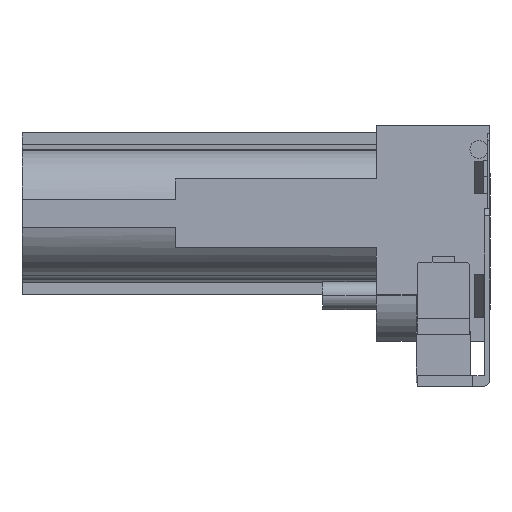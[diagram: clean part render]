
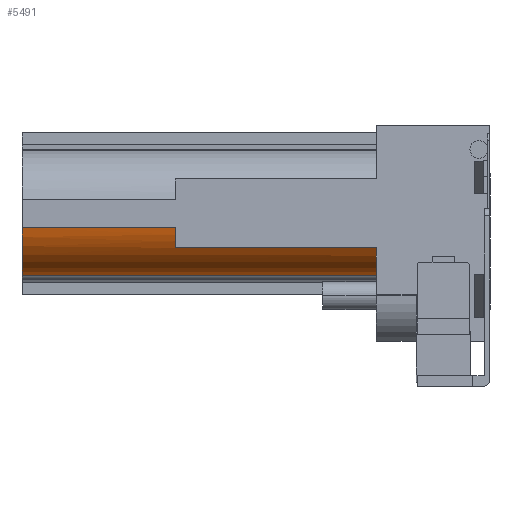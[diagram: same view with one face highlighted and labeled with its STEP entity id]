
A CAD part, front view. The second image highlights one B-rep face of the part: STEP entity #5491.
In plain terms, the highlighted cylindrical face has radius 23 mm (diameter 46 mm), a partial arc.
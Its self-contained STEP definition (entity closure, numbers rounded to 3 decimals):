
#259 = AXIS2_PLACEMENT_3D ( 'NONE', #576, #577, #578 ) ;
#576 = CARTESIAN_POINT ( 'NONE',  ( -41.25, 643.569, 13.168 ) ) ;
#577 = DIRECTION ( 'NONE',  ( -1., 0., 0. ) ) ;
#578 = DIRECTION ( 'NONE',  ( 0., -1., 0. ) ) ;
#719 = CARTESIAN_POINT ( 'NONE',  ( -41.25, 638.35, -9.232 ) ) ;
#721 = CARTESIAN_POINT ( 'NONE',  ( -41.25, 624.21, 0.75 ) ) ;
#752 = CARTESIAN_POINT ( 'NONE',  ( -169.95, 621.125, 8.142 ) ) ;
#805 = CARTESIAN_POINT ( 'NONE',  ( -114.25, 621.125, 8.142 ) ) ;
#888 = CARTESIAN_POINT ( 'NONE',  ( -169.95, 638.35, -9.232 ) ) ;
#924 = CARTESIAN_POINT ( 'NONE',  ( -114.25, 624.21, 0.75 ) ) ;
#1886 = FACE_OUTER_BOUND ( 'NONE', #3467, .T. ) ;
#1887 = CYLINDRICAL_SURFACE ( 'NONE', #259, 23. ) ;
#3467 = EDGE_LOOP ( 'NONE', ( #4514, #4515, #4516, #4517, #4518, #4519 ) ) ;
#4094 = LINE ( 'NONE', #6035, #4095 ) ;
#4095 = VECTOR ( 'NONE', #6034, 1000. ) ;
#4096 = LINE ( 'NONE', #6030, #4098 ) ;
#4097 = CIRCLE ( 'NONE', #5106, 23. ) ;
#4098 = VECTOR ( 'NONE', #6029, 1000. ) ;
#4099 = LINE ( 'NONE', #6025, #4101 ) ;
#4100 = CIRCLE ( 'NONE', #5107, 23. ) ;
#4101 = VECTOR ( 'NONE', #6024, 1000. ) ;
#4121 = CIRCLE ( 'NONE', #5110, 23. ) ;
#4514 = ORIENTED_EDGE ( 'NONE', *, *, #4590, .F. ) ;
#4515 = ORIENTED_EDGE ( 'NONE', *, *, #4589, .F. ) ;
#4516 = ORIENTED_EDGE ( 'NONE', *, *, #4588, .T. ) ;
#4517 = ORIENTED_EDGE ( 'NONE', *, *, #4587, .T. ) ;
#4518 = ORIENTED_EDGE ( 'NONE', *, *, #4586, .F. ) ;
#4519 = ORIENTED_EDGE ( 'NONE', *, *, #4601, .F. ) ;
#4586 = EDGE_CURVE ( 'NONE', #6163, #6332, #4094, .T. ) ;
#4587 = EDGE_CURVE ( 'NONE', #6196, #6332, #4097, .T. ) ;
#4588 = EDGE_CURVE ( 'NONE', #6249, #6196, #4096, .T. ) ;
#4589 = EDGE_CURVE ( 'NONE', #6249, #6368, #4100, .T. ) ;
#4590 = EDGE_CURVE ( 'NONE', #6368, #6165, #4099, .T. ) ;
#4601 = EDGE_CURVE ( 'NONE', #6165, #6163, #4121, .T. ) ;
#5106 = AXIS2_PLACEMENT_3D ( 'NONE', #6033, #6032, #6031 ) ;
#5107 = AXIS2_PLACEMENT_3D ( 'NONE', #6028, #6027, #6026 ) ;
#5110 = AXIS2_PLACEMENT_3D ( 'NONE', #5986, #5988, #5990 ) ;
#5491 = ADVANCED_FACE ( 'NONE', ( #1886 ), #1887, .T. ) ;
#5986 = CARTESIAN_POINT ( 'NONE',  ( -41.25, 643.569, 13.168 ) ) ;
#5988 = DIRECTION ( 'NONE',  ( 1., 0., 0. ) ) ;
#5990 = DIRECTION ( 'NONE',  ( 0., -1., 0. ) ) ;
#6024 = DIRECTION ( 'NONE',  ( 1., 0., 0. ) ) ;
#6025 = CARTESIAN_POINT ( 'NONE',  ( -114.25, 624.21, 0.75 ) ) ;
#6026 = DIRECTION ( 'NONE',  ( 0., -1., 0. ) ) ;
#6027 = DIRECTION ( 'NONE',  ( 1., 0., 0. ) ) ;
#6028 = CARTESIAN_POINT ( 'NONE',  ( -114.25, 643.569, 13.168 ) ) ;
#6029 = DIRECTION ( 'NONE',  ( -1., 0., 0. ) ) ;
#6030 = CARTESIAN_POINT ( 'NONE',  ( -41.25, 621.125, 8.142 ) ) ;
#6031 = DIRECTION ( 'NONE',  ( 0., -1., 0. ) ) ;
#6032 = DIRECTION ( 'NONE',  ( 1., 0., 0. ) ) ;
#6033 = CARTESIAN_POINT ( 'NONE',  ( -169.95, 643.569, 13.168 ) ) ;
#6034 = DIRECTION ( 'NONE',  ( -1., 0., 0. ) ) ;
#6035 = CARTESIAN_POINT ( 'NONE',  ( -41.25, 638.35, -9.232 ) ) ;
#6163 = VERTEX_POINT ( 'NONE', #719 ) ;
#6165 = VERTEX_POINT ( 'NONE', #721 ) ;
#6196 = VERTEX_POINT ( 'NONE', #752 ) ;
#6249 = VERTEX_POINT ( 'NONE', #805 ) ;
#6332 = VERTEX_POINT ( 'NONE', #888 ) ;
#6368 = VERTEX_POINT ( 'NONE', #924 ) ;
